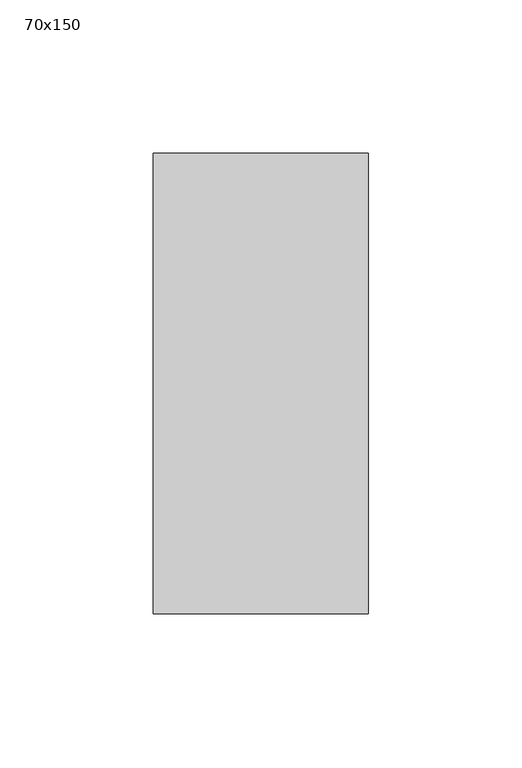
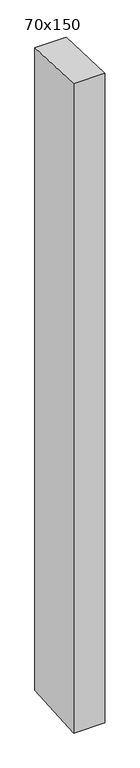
"""IFC4 building model written with IfcOpenShell, lengths in millimetres: member geometry, 長方形のマリオン : 70x150."""

from ifc_helpers import new_model, si_unit, frame, origin, place, context, project, spatial, polyline, outline, extrude, source, transform, mapped, element, save


def member_70x150_17e14e75(model_context):
    return source(origin(), model_context, "Body", "SweptSolid", [
        extrude(outline(polyline([(-75.0, 2.8650935), (75.0, -2.8650935), (75.0, -1521.0219989), (-75.0, -1530.8854759), (-75.0, 2.8650935)])), frame((-35.0, 0.0, 0.0), z_axis=(1.0, 0.0, 0.0), x_axis=(0.0, 1.0, 0.0)), (0.0, 0.0, 1.0), 70.0),
    ])


if __name__ == "__main__":
    model = new_model("IFC4")
    model_context = context("Model", 3, world=origin())
    ifc_project = project(units=[si_unit("LENGTHUNIT", "METRE", prefix="MILLI")], contexts=[model_context])
    site = spatial("IfcSite", under=ifc_project)
    building = spatial("IfcBuilding", under=site)
    placement = place(None, origin())
    member_70x150_shape = member_70x150_17e14e75(model_context)
    element("IfcMember", 1, ObjectType="長方形のマリオン : 70x150", at=placement, inside=building, context=model_context, shape_type="MappedRepresentation", body=[
        mapped(member_70x150_shape, transform((0.0, 0.0, 0.0), x_axis=(1.0, 0.0, 0.0), y_axis=(0.0, 1.0, 0.0), z_axis=(0.0, 0.0, 1.0))),
    ])
    save(model, "model.ifc")
